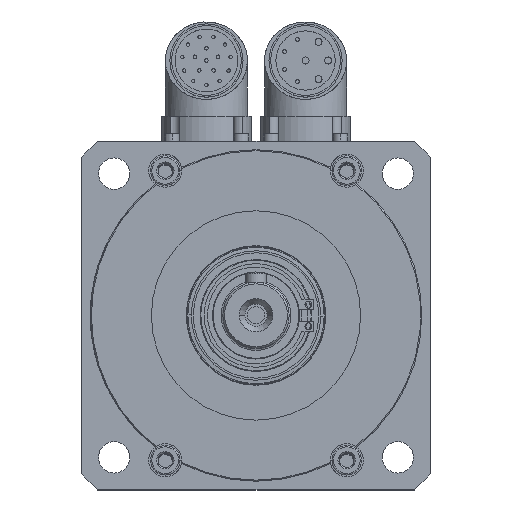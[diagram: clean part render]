
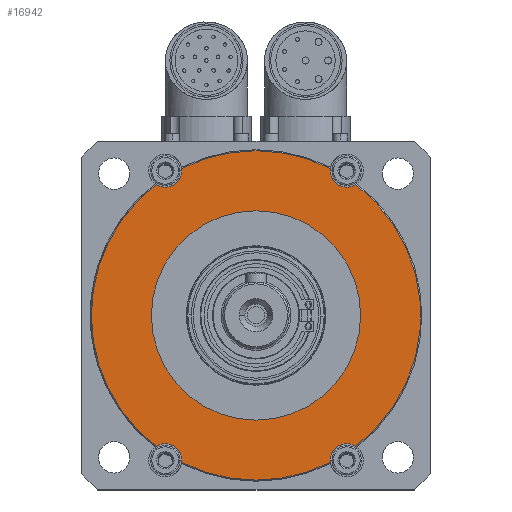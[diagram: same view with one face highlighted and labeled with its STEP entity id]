
A CAD part, top view. The second image highlights one B-rep face of the part: STEP entity #16942.
In plain terms, the highlighted planar face has unit normal (0, 0, 1).
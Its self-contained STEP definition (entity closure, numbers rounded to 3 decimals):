
#2648 = AXIS2_PLACEMENT_3D ( 'NONE', #4121, #4122, #4123 ) ;
#2650 = AXIS2_PLACEMENT_3D ( 'NONE', #4093, #4100, #4101 ) ;
#2652 = AXIS2_PLACEMENT_3D ( 'NONE', #4096, #4105, #4106 ) ;
#2654 = AXIS2_PLACEMENT_3D ( 'NONE', #4107, #4114, #4115 ) ;
#2664 = AXIS2_PLACEMENT_3D ( 'NONE', #4139, #4146, #4147 ) ;
#2690 = AXIS2_PLACEMENT_3D ( 'NONE', #4271, #4274, #4275 ) ;
#2883 = ORIENTED_EDGE ( 'NONE', *, *, #11284, .F. ) ;
#2884 = ORIENTED_EDGE ( 'NONE', *, *, #11279, .F. ) ;
#2885 = ORIENTED_EDGE ( 'NONE', *, *, #14789, .F. ) ;
#2886 = ORIENTED_EDGE ( 'NONE', *, *, #16345, .T. ) ;
#2887 = ORIENTED_EDGE ( 'NONE', *, *, #16331, .F. ) ;
#2888 = ORIENTED_EDGE ( 'NONE', *, *, #11294, .F. ) ;
#2889 = ORIENTED_EDGE ( 'NONE', *, *, #16321, .T. ) ;
#2890 = ORIENTED_EDGE ( 'NONE', *, *, #16324, .F. ) ;
#2891 = ORIENTED_EDGE ( 'NONE', *, *, #11289, .F. ) ;
#2892 = ORIENTED_EDGE ( 'NONE', *, *, #16328, .T. ) ;
#2893 = ORIENTED_EDGE ( 'NONE', *, *, #11258, .F. ) ;
#2894 = ORIENTED_EDGE ( 'NONE', *, *, #14787, .F. ) ;
#2895 = ORIENTED_EDGE ( 'NONE', *, *, #11311, .T. ) ;
#2896 = ORIENTED_EDGE ( 'NONE', *, *, #11595, .T. ) ;
#2897 = ORIENTED_EDGE ( 'NONE', *, *, #11260, .F. ) ;
#3568 = CIRCLE ( 'NONE', #2650, 47.2 ) ;
#3569 = CIRCLE ( 'NONE', #2652, 4.75 ) ;
#3575 = CIRCLE ( 'NONE', #2654, 47.2 ) ;
#3584 = CIRCLE ( 'NONE', #2648, 4.75 ) ;
#3600 = CIRCLE ( 'NONE', #2664, 47.2 ) ;
#3709 = FACE_OUTER_BOUND ( 'NONE', #9554, .T. ) ;
#3711 = FACE_BOUND ( 'NONE', #10240, .T. ) ;
#4093 = CARTESIAN_POINT ( 'NONE',  ( 0., 0., 20. ) ) ;
#4096 = CARTESIAN_POINT ( 'NONE',  ( 26., -41.5, 20. ) ) ;
#4100 = DIRECTION ( 'NONE',  ( 0., 0., 1. ) ) ;
#4101 = DIRECTION ( 'NONE',  ( 1., 0., 0. ) ) ;
#4105 = DIRECTION ( 'NONE',  ( 0., 0., 1. ) ) ;
#4106 = DIRECTION ( 'NONE',  ( 1., 0., 0. ) ) ;
#4107 = CARTESIAN_POINT ( 'NONE',  ( 0., 0., 20. ) ) ;
#4114 = DIRECTION ( 'NONE',  ( 0., 0., 1. ) ) ;
#4115 = DIRECTION ( 'NONE',  ( 1., 0., 0. ) ) ;
#4121 = CARTESIAN_POINT ( 'NONE',  ( 26., 41.5, 20. ) ) ;
#4122 = DIRECTION ( 'NONE',  ( 0., 0., 1. ) ) ;
#4123 = DIRECTION ( 'NONE',  ( 1., 0., 0. ) ) ;
#4139 = CARTESIAN_POINT ( 'NONE',  ( 0., 0., 20. ) ) ;
#4146 = DIRECTION ( 'NONE',  ( 0., 0., 1. ) ) ;
#4147 = DIRECTION ( 'NONE',  ( 1., 0., 0. ) ) ;
#4271 = CARTESIAN_POINT ( 'NONE',  ( -50., 50., 20. ) ) ;
#4272 = PLANE ( 'NONE',  #2690 ) ;
#4274 = DIRECTION ( 'NONE',  ( 0., 0., 1. ) ) ;
#4275 = DIRECTION ( 'NONE',  ( 1., 0., 0. ) ) ;
#4545 = CARTESIAN_POINT ( 'NONE',  ( -21.291, -42.125, 20. ) ) ;
#4616 = CARTESIAN_POINT ( 'NONE',  ( 21.291, 42.125, 20. ) ) ;
#4906 = CIRCLE ( 'NONE', #16676, 4.75 ) ;
#4908 = CIRCLE ( 'NONE', #16679, 4.75 ) ;
#4931 = CIRCLE ( 'NONE', #16693, 30. ) ;
#4937 = CIRCLE ( 'NONE', #16697, 30. ) ;
#4943 = CIRCLE ( 'NONE', #16690, 4.75 ) ;
#4952 = CIRCLE ( 'NONE', #16712, 4.75 ) ;
#4975 = CIRCLE ( 'NONE', #16722, 47.2 ) ;
#5497 = CARTESIAN_POINT ( 'NONE',  ( -26., -41.5, 20. ) ) ;
#5528 = CARTESIAN_POINT ( 'NONE',  ( -26., 41.5, 20. ) ) ;
#5529 = DIRECTION ( 'NONE',  ( 0., 0., 1. ) ) ;
#5530 = DIRECTION ( 'NONE',  ( 1., 0., 0. ) ) ;
#5535 = DIRECTION ( 'NONE',  ( 0., 0., 1. ) ) ;
#5536 = DIRECTION ( 'NONE',  ( 1., 0., 0. ) ) ;
#6222 = DIRECTION ( 'NONE',  ( 1., 0., 0. ) ) ;
#6223 = DIRECTION ( 'NONE',  ( 0., 0., 1. ) ) ;
#6242 = CARTESIAN_POINT ( 'NONE',  ( 0., 0., 20. ) ) ;
#7477 = CIRCLE ( 'NONE', #12578, 4.75 ) ;
#7481 = CIRCLE ( 'NONE', #12581, 4.75 ) ;
#7805 = CARTESIAN_POINT ( 'NONE',  ( 21.25, 41.5, 20. ) ) ;
#7825 = CARTESIAN_POINT ( 'NONE',  ( 21.25, -41.5, 20. ) ) ;
#7840 = CARTESIAN_POINT ( 'NONE',  ( 30., 0., 20. ) ) ;
#7843 = CARTESIAN_POINT ( 'NONE',  ( -30., 0., 20. ) ) ;
#9554 = EDGE_LOOP ( 'NONE', ( #2897, #2896, #2895, #2894, #2893, #2892, #2891, #2890, #2889, #2888, #2887, #2886, #2885 ) ) ;
#9942 = DIRECTION ( 'NONE',  ( 1., 0., 0. ) ) ;
#9943 = DIRECTION ( 'NONE',  ( 0., 0., 1. ) ) ;
#9948 = CARTESIAN_POINT ( 'NONE',  ( 0., 0., 20. ) ) ;
#9982 = DIRECTION ( 'NONE',  ( 1., 0., 0. ) ) ;
#9983 = DIRECTION ( 'NONE',  ( 0., 0., 1. ) ) ;
#9993 = CARTESIAN_POINT ( 'NONE',  ( 26., 41.5, 20. ) ) ;
#9994 = DIRECTION ( 'NONE',  ( 1., 0., 0. ) ) ;
#9995 = DIRECTION ( 'NONE',  ( 0., 0., 1. ) ) ;
#9997 = CARTESIAN_POINT ( 'NONE',  ( 26., -41.5, 20. ) ) ;
#10010 = DIRECTION ( 'NONE',  ( 1., 0., 0. ) ) ;
#10011 = DIRECTION ( 'NONE',  ( 0., 0., 1. ) ) ;
#10023 = DIRECTION ( 'NONE',  ( 1., 0., 0. ) ) ;
#10024 = DIRECTION ( 'NONE',  ( 0., 0., 1. ) ) ;
#10025 = CARTESIAN_POINT ( 'NONE',  ( 0., 0., 20. ) ) ;
#10028 = CARTESIAN_POINT ( 'NONE',  ( 0., 0., 20. ) ) ;
#10240 = EDGE_LOOP ( 'NONE', ( #2884, #2883 ) ) ;
#10571 = VERTEX_POINT ( 'NONE', #12961 ) ;
#10661 = VERTEX_POINT ( 'NONE', #4616 ) ;
#10713 = VERTEX_POINT ( 'NONE', #4545 ) ;
#10720 = VERTEX_POINT ( 'NONE', #7840 ) ;
#10729 = VERTEX_POINT ( 'NONE', #7805 ) ;
#10744 = VERTEX_POINT ( 'NONE', #7843 ) ;
#10758 = VERTEX_POINT ( 'NONE', #7825 ) ;
#10884 = AXIS2_PLACEMENT_3D ( 'NONE', #6242, #6223, #6222 ) ;
#11258 = EDGE_CURVE ( 'NONE', #10713, #17401, #4906, .T. ) ;
#11260 = EDGE_CURVE ( 'NONE', #17414, #17327, #4908, .T. ) ;
#11279 = EDGE_CURVE ( 'NONE', #10720, #10744, #4931, .T. ) ;
#11284 = EDGE_CURVE ( 'NONE', #10744, #10720, #4937, .T. ) ;
#11289 = EDGE_CURVE ( 'NONE', #10758, #17456, #4943, .T. ) ;
#11294 = EDGE_CURVE ( 'NONE', #10729, #10571, #4952, .T. ) ;
#11311 = EDGE_CURVE ( 'NONE', #17395, #17396, #4975, .T. ) ;
#11595 = EDGE_CURVE ( 'NONE', #17414, #17395, #13909, .T. ) ;
#12578 = AXIS2_PLACEMENT_3D ( 'NONE', #5497, #5529, #5530 ) ;
#12581 = AXIS2_PLACEMENT_3D ( 'NONE', #5528, #5535, #5536 ) ;
#12961 = CARTESIAN_POINT ( 'NONE',  ( 28.617, 37.536, 20. ) ) ;
#12980 = CARTESIAN_POINT ( 'NONE',  ( -21.25, 41.5, 20. ) ) ;
#13042 = CARTESIAN_POINT ( 'NONE',  ( 28.617, -37.536, 20. ) ) ;
#13102 = CARTESIAN_POINT ( 'NONE',  ( -47.2, 0., 20. ) ) ;
#13103 = CARTESIAN_POINT ( 'NONE',  ( -28.617, -37.536, 20. ) ) ;
#13112 = CARTESIAN_POINT ( 'NONE',  ( -21.25, -41.5, 20. ) ) ;
#13134 = CARTESIAN_POINT ( 'NONE',  ( -28.617, 37.536, 20. ) ) ;
#13179 = CARTESIAN_POINT ( 'NONE',  ( -21.291, 42.125, 20. ) ) ;
#13183 = CARTESIAN_POINT ( 'NONE',  ( 21.291, -42.125, 20. ) ) ;
#13829 = CARTESIAN_POINT ( 'NONE',  ( -26., -41.5, 20. ) ) ;
#13909 = CIRCLE ( 'NONE', #10884, 47.2 ) ;
#14787 = EDGE_CURVE ( 'NONE', #17401, #17396, #7477, .T. ) ;
#14789 = EDGE_CURVE ( 'NONE', #17327, #17452, #7481, .T. ) ;
#14992 = DIRECTION ( 'NONE',  ( 1., 0., 0. ) ) ;
#14993 = DIRECTION ( 'NONE',  ( 0., 0., 1. ) ) ;
#14995 = DIRECTION ( 'NONE',  ( 1., 0., 0. ) ) ;
#15063 = DIRECTION ( 'NONE',  ( 0., 0., 1. ) ) ;
#15065 = CARTESIAN_POINT ( 'NONE',  ( -26., 41.5, 20. ) ) ;
#16321 = EDGE_CURVE ( 'NONE', #17362, #10571, #3568, .T. ) ;
#16324 = EDGE_CURVE ( 'NONE', #17362, #10758, #3569, .T. ) ;
#16328 = EDGE_CURVE ( 'NONE', #10713, #17456, #3575, .T. ) ;
#16331 = EDGE_CURVE ( 'NONE', #10661, #10729, #3584, .T. ) ;
#16345 = EDGE_CURVE ( 'NONE', #10661, #17452, #3600, .T. ) ;
#16676 = AXIS2_PLACEMENT_3D ( 'NONE', #13829, #15063, #14995 ) ;
#16679 = AXIS2_PLACEMENT_3D ( 'NONE', #15065, #14993, #14992 ) ;
#16690 = AXIS2_PLACEMENT_3D ( 'NONE', #9997, #9995, #9994 ) ;
#16693 = AXIS2_PLACEMENT_3D ( 'NONE', #10025, #10024, #10023 ) ;
#16697 = AXIS2_PLACEMENT_3D ( 'NONE', #10028, #10011, #10010 ) ;
#16712 = AXIS2_PLACEMENT_3D ( 'NONE', #9993, #9983, #9982 ) ;
#16722 = AXIS2_PLACEMENT_3D ( 'NONE', #9948, #9943, #9942 ) ;
#16942 = ADVANCED_FACE ( 'NONE', ( #3709, #3711 ), #4272, .T. ) ;
#17327 = VERTEX_POINT ( 'NONE', #12980 ) ;
#17362 = VERTEX_POINT ( 'NONE', #13042 ) ;
#17395 = VERTEX_POINT ( 'NONE', #13102 ) ;
#17396 = VERTEX_POINT ( 'NONE', #13103 ) ;
#17401 = VERTEX_POINT ( 'NONE', #13112 ) ;
#17414 = VERTEX_POINT ( 'NONE', #13134 ) ;
#17452 = VERTEX_POINT ( 'NONE', #13179 ) ;
#17456 = VERTEX_POINT ( 'NONE', #13183 ) ;
